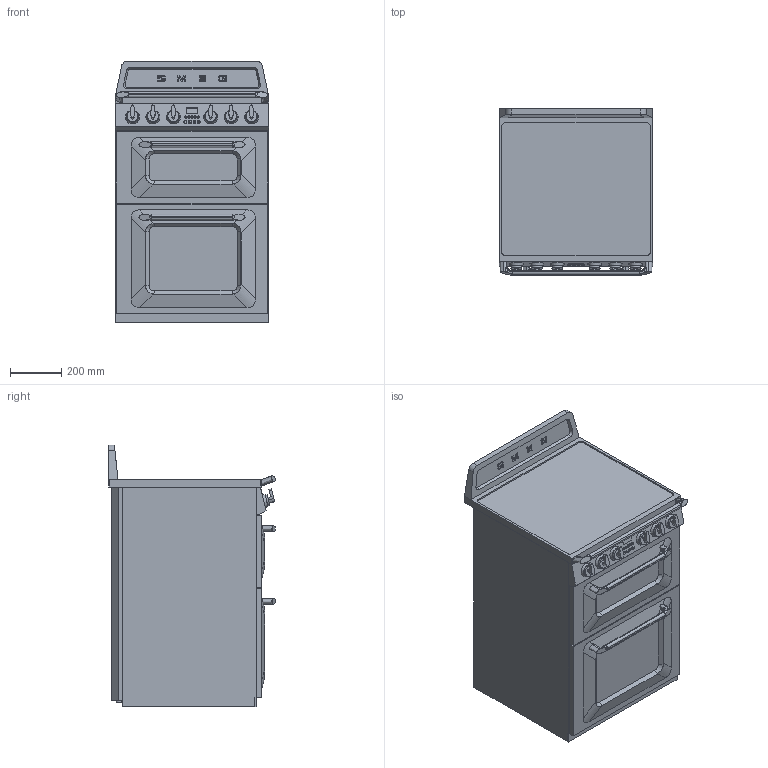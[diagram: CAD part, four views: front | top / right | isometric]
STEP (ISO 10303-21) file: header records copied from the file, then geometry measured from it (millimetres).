
FILE_DESCRIPTION(/* description */ (''),/* implementation_level */ '2;1');
FILE_NAME(/* name */ 'TR62IP.stp',/* time_stamp */ '2017-11-06T16:43:39+01:00',/* author */ (''),/* organization */ (''),/* preprocessor_version */ 'ST-DEVELOPER v16',/* originating_system */ 'SIEMENS PLM Software NX 11.0',/* authorisation */ '');
FILE_SCHEMA (('AUTOMOTIVE_DESIGN { 1 0 10303 214 3 1 1 1 }'));
Length unit declared in the file: millimetre
Products named in the file (1): grasBE501F6Bzrm2
Bounding box: 600 x 651.64 x 1024.8 mm (x, y, z)
Volume: 303481609.3 mm3; surface area: 6809804.6 mm2
Topology: 43 solids, 45 shells, 766 faces, 1861 edges, 1220 vertices
Faces by surface type: plane 376, extrusion 160, cylinder 154, bspline 48, cone 18, sphere 5, torus 5
Full cylindrical faces by diameter (mm): 3.9 x5, 5 x12, 8 x5, 9 x5, 20 x7, 43.084 x6
Entity records: 26301 total; most frequent: CARTESIAN_POINT 8643, ORIENTED_EDGE 3570, DIRECTION 3293, EDGE_CURVE 1790, VERTEX_POINT 1210, VECTOR 1117, AXIS2_PLACEMENT_3D 1088, LINE 957
